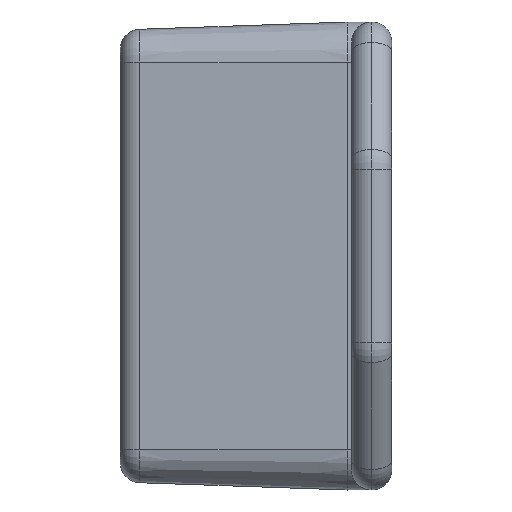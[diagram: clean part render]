
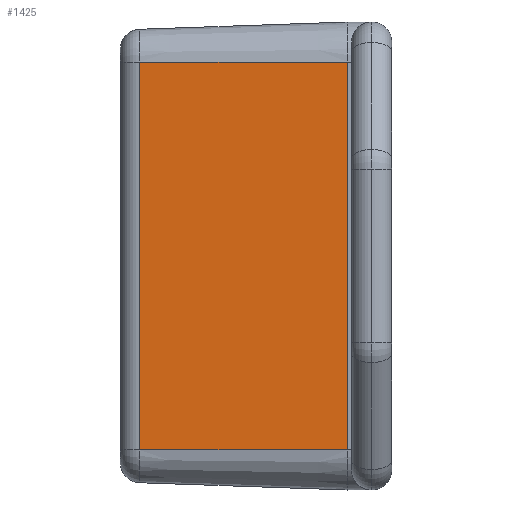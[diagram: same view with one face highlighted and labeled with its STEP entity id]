
A CAD part, left-side view. The second image highlights one B-rep face of the part: STEP entity #1425.
In plain terms, the highlighted planar face has unit normal (-0.999, 0.035, 0).
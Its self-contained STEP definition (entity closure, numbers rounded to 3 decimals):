
#53 = CARTESIAN_POINT ( 'NONE',  ( -24.457, 15.552, -14.5 ) ) ;
#136 = EDGE_LOOP ( 'NONE', ( #187, #3236, #4847, #2386 ) ) ;
#187 = ORIENTED_EDGE ( 'NONE', *, *, #584, .F. ) ;
#253 = VERTEX_POINT ( 'NONE', #53 ) ;
#433 = CARTESIAN_POINT ( 'NONE',  ( -24.457, 15.552, -14.5 ) ) ;
#520 = VERTEX_POINT ( 'NONE', #4942 ) ;
#584 = EDGE_CURVE ( 'NONE', #2201, #3009, #4017, .T. ) ;
#606 = PLANE ( 'NONE',  #691 ) ;
#691 = AXIS2_PLACEMENT_3D ( 'NONE', #2617, #1796, #4460 ) ;
#697 = VECTOR ( 'NONE', #2862, 1000. ) ;
#843 = VECTOR ( 'NONE', #1802, 1000. ) ;
#889 = LINE ( 'NONE', #4106, #2787 ) ;
#910 = CARTESIAN_POINT ( 'NONE',  ( -24.457, 15.552, 14.5 ) ) ;
#1077 = DIRECTION ( 'NONE',  ( 0., 0., 1. ) ) ;
#1425 = ADVANCED_FACE ( 'NONE', ( #2526 ), #606, .T. ) ;
#1784 = VECTOR ( 'NONE', #1077, 1000. ) ;
#1796 = DIRECTION ( 'NONE',  ( -0.999, 0.035, 0. ) ) ;
#1802 = DIRECTION ( 'NONE',  ( -0.035, -0.999, 0. ) ) ;
#1861 = CARTESIAN_POINT ( 'NONE',  ( -25., 0., 14.5 ) ) ;
#1874 = EDGE_CURVE ( 'NONE', #253, #520, #889, .T. ) ;
#1902 = LINE ( 'NONE', #433, #697 ) ;
#2201 = VERTEX_POINT ( 'NONE', #910 ) ;
#2288 = CARTESIAN_POINT ( 'NONE',  ( -25., 0., -14.5 ) ) ;
#2386 = ORIENTED_EDGE ( 'NONE', *, *, #2880, .T. ) ;
#2526 = FACE_OUTER_BOUND ( 'NONE', #136, .T. ) ;
#2617 = CARTESIAN_POINT ( 'NONE',  ( -25., 0., -14.5 ) ) ;
#2787 = VECTOR ( 'NONE', #4297, 1000. ) ;
#2862 = DIRECTION ( 'NONE',  ( 0., 0., -1. ) ) ;
#2880 = EDGE_CURVE ( 'NONE', #520, #3009, #4918, .T. ) ;
#3009 = VERTEX_POINT ( 'NONE', #4736 ) ;
#3236 = ORIENTED_EDGE ( 'NONE', *, *, #4310, .T. ) ;
#4017 = LINE ( 'NONE', #1861, #843 ) ;
#4106 = CARTESIAN_POINT ( 'NONE',  ( -25., 0., -14.5 ) ) ;
#4297 = DIRECTION ( 'NONE',  ( -0.035, -0.999, 0. ) ) ;
#4310 = EDGE_CURVE ( 'NONE', #2201, #253, #1902, .T. ) ;
#4460 = DIRECTION ( 'NONE',  ( -0.035, -0.999, 0. ) ) ;
#4736 = CARTESIAN_POINT ( 'NONE',  ( -25., 0., 14.5 ) ) ;
#4847 = ORIENTED_EDGE ( 'NONE', *, *, #1874, .T. ) ;
#4918 = LINE ( 'NONE', #2288, #1784 ) ;
#4942 = CARTESIAN_POINT ( 'NONE',  ( -25., 0., -14.5 ) ) ;
